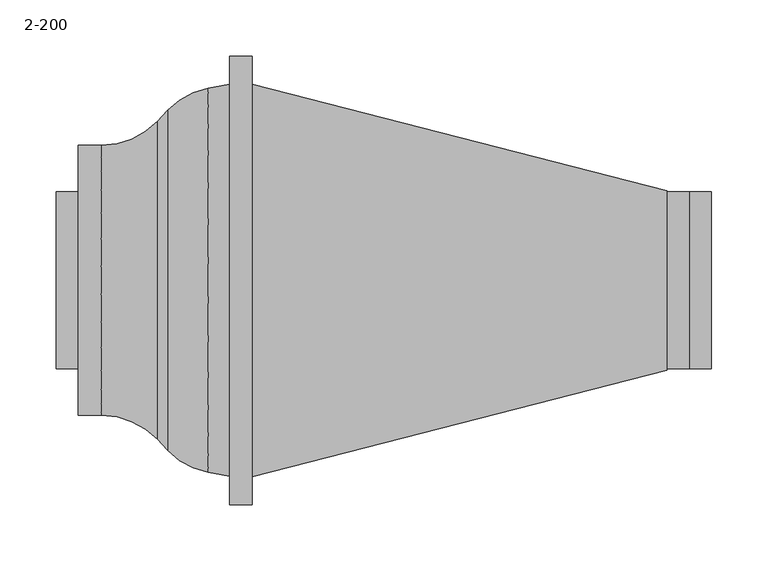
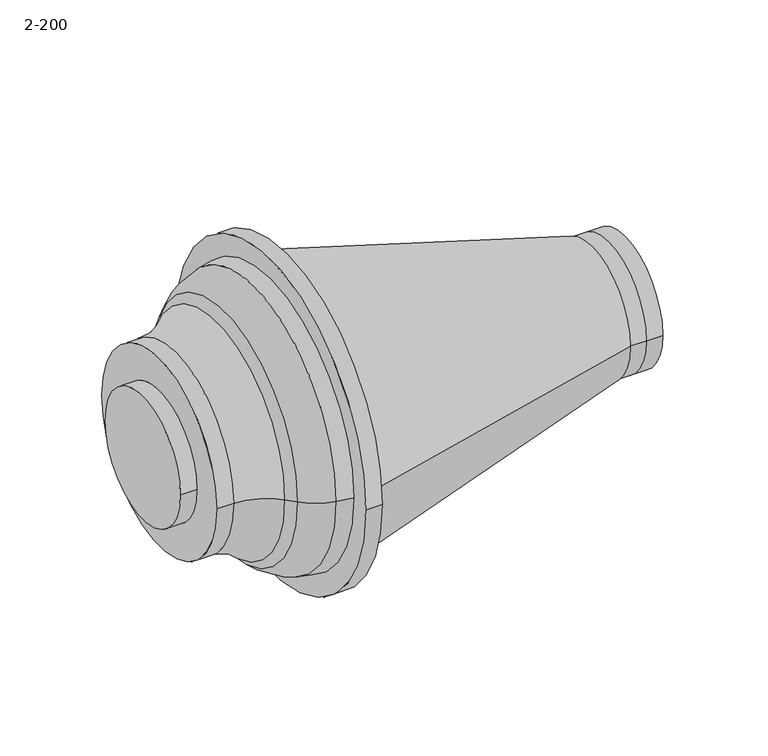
"""IFC4 building model written with IfcOpenShell, lengths in millimetres: unitary equipment geometry, VE-Wentylator-ParaForma-Harmann-VITT_L-Wywiewny : 2-200."""

from ifc_helpers import new_model, si_unit, point, frame, origin, origin_2d, place, context, project, spatial, polyline, circle_curve, ellipse_curve, trimmed, segment, composite_curve, outline, extrude, source, transform, mapped, element, save
from ifc_brep_helpers import plane_surface, cylinder_surface, revolved_surface, advanced_brep


def unitary_equipment_2_200_6ce64f90(model_context):
    return source(origin(), model_context, "Body", "SolidModel", [
        advanced_brep(
        [(-20.0, -174.9, 0.0), (-20.0, 174.9, 0.0), (-155.0, 120.4, 0.0), (-155.0, -120.4, 0.0), (-155.0, 79.0, 0.0), (-155.0, -79.0, 0.0), (-75.2, -151.7, 0.0), (-84.5, -141.9, 0.0), (-84.5, 141.9, 0.0), (-75.2, 151.7, 0.0), (-39.2, -171.3, 0.0), (-39.2, 171.3, 0.0), (-134.5, -120.4, 0.0), (-134.5, 120.4, 0.0), (-175.0, -79.0, 0.0), (-175.0, 79.0, 0.0)],
        [
            (0, 1, circle_curve(frame((-20.0, 0.0, 0.0), z_axis=(1.0, 0.0, 0.0), x_axis=(0.0, 0.9999999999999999, 0.0)), 174.9)),
            (1, 0, circle_curve(frame((-20.0, 0.0, 0.0), z_axis=(1.0, 0.0, 0.0), x_axis=(0.0, 0.9999999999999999, 0.0)), 174.9)),
            (2, 3, circle_curve(frame((-155.0, 0.0, 0.0), z_axis=(-1.0, 0.0, 0.0), x_axis=(0.0, 0.9999999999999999, 0.0)), 120.4)),
            (3, 2, circle_curve(frame((-155.0, 0.0, 0.0), z_axis=(-1.0, 0.0, 0.0), x_axis=(0.0, 0.9999999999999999, 0.0)), 120.4)),
            (4, 5, circle_curve(frame((-155.0, 0.0, 0.0), z_axis=(1.0, 0.0, 0.0), x_axis=(0.0, 0.9999999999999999, 0.0)), 79.0)),
            (5, 4, circle_curve(frame((-155.0, 0.0, 0.0), z_axis=(1.0, 0.0, 0.0), x_axis=(0.0, 0.9999999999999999, 0.0)), 79.0)),
            (6, 7),
            (7, 8, circle_curve(frame((-84.5, 0.0, 0.0), z_axis=(1.0, 0.0, 0.0), x_axis=(0.0, 0.9999999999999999, 0.0)), 141.9)),
            (8, 9),
            (9, 6, circle_curve(frame((-75.2, 0.0, 0.0), z_axis=(-1.0, 0.0, 0.0), x_axis=(0.0, 0.9999999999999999, 0.0)), 151.7)),
            (6, 9, circle_curve(frame((-75.2, 0.0, 0.0), z_axis=(-1.0, 0.0, 0.0), x_axis=(0.0, 0.9999999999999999, 0.0)), 151.7)),
            (8, 7, circle_curve(frame((-84.5, 0.0, 0.0), z_axis=(1.0, 0.0, 0.0), x_axis=(0.0, 0.9999999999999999, 0.0)), 141.9)),
            (0, 10),
            (10, 11, circle_curve(frame((-39.2, 0.0, 0.0), z_axis=(1.0, 0.0, 0.0), x_axis=(0.0, 0.9999999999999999, 0.0)), 171.3)),
            (11, 1),
            (11, 10, circle_curve(frame((-39.2, 0.0, 0.0), z_axis=(1.0, 0.0, 0.0), x_axis=(0.0, 0.9999999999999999, 0.0)), 171.3)),
            (12, 3),
            (2, 13),
            (13, 12, circle_curve(frame((-134.5, 0.0, 0.0), z_axis=(-1.0, 0.0, 0.0), x_axis=(0.0, 0.9999999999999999, 0.0)), 120.4)),
            (12, 13, circle_curve(frame((-134.5, 0.0, 0.0), z_axis=(-1.0, 0.0, 0.0), x_axis=(0.0, 0.9999999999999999, 0.0)), 120.4)),
            (7, 12, circle_curve(frame((-134.5431822, -189.3899586, 0.0), z_axis=(0.0, 0.0, 1.0000000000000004), x_axis=(0.9999999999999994, 0.0, 0.0)), 68.9899721)),
            (13, 8, circle_curve(frame((-134.5431822, 189.3899586, 0.0), z_axis=(0.0, 0.0, 1.0000000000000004), x_axis=(0.9999999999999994, 0.0, 0.0)), 68.9899721)),
            (9, 11, circle_curve(frame((-26.9195402, 105.882829, 0.0), z_axis=(0.0, 0.0, -1.0000000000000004), x_axis=(0.9999999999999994, 0.0, 0.0)), 66.5598674)),
            (10, 6, circle_curve(frame((-26.9195402, -105.882829, 0.0), z_axis=(0.0, 0.0, -1.0000000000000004), x_axis=(0.9999999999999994, 0.0, 0.0)), 66.5598674)),
            (14, 15, circle_curve(frame((-175.0, 0.0, 0.0), z_axis=(-1.0, 0.0, 0.0), x_axis=(0.0, 0.9999999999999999, 0.0)), 79.0)),
            (15, 14, circle_curve(frame((-175.0, 0.0, 0.0), z_axis=(-1.0, 0.0, 0.0), x_axis=(0.0, 0.9999999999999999, 0.0)), 79.0)),
            (14, 5),
            (4, 15),
        ],
        [
            plane_surface(frame((-20.0, 0.0, 0.0), z_axis=(1.0, 0.0, 0.0), x_axis=(0.0, 0.0, -1.0))),
            plane_surface(frame((-155.0, 0.0, 0.0), z_axis=(-1.0, 0.0, 0.0), x_axis=(0.0, 0.0, -1.0))),
            revolved_surface(polyline([(-75.2, 151.7, 0.0), (-84.5, 141.9, 0.0)]), (-155.0, 0.0, 0.0), (-0.9999999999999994, 0.0, 0.0)),
            revolved_surface(polyline([(-20.0, 174.9, 0.0), (-39.2, 171.3, 0.0)]), (-155.0, 0.0, 0.0), (-0.9999999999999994, 0.0, 0.0)),
            cylinder_surface(frame((-155.0, 0.0, 0.0), z_axis=(-0.9999999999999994, 0.0, 0.0), x_axis=(0.0, 0.9999999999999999, 0.0)), 120.4),
            revolved_surface(trimmed(ellipse_curve(frame((-134.5431822, 189.3899586, 0.0), z_axis=(0.0, 0.0, -1.0000000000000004), x_axis=(0.9999999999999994, 0.0, 0.0)), 68.9899721, 68.9899721), [point((-84.5, 141.9, 0.0))], [point((-134.5, 120.4, 0.0))], True, "CARTESIAN"), (-155.0, 0.0, 0.0), (-0.9999999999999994, 0.0, 0.0)),
            revolved_surface(trimmed(ellipse_curve(frame((-26.9195402, 105.882829, 0.0), z_axis=(0.0, 0.0, 1.0000000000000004), x_axis=(0.9999999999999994, 0.0, 0.0)), 66.5598674, 66.5598674), [point((-39.2, 171.3, 0.0))], [point((-75.2, 151.7, 0.0))], True, "CARTESIAN"), (-155.0, 0.0, 0.0), (-0.9999999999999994, 0.0, 0.0)),
            plane_surface(frame((-175.0, 0.0, 0.0), z_axis=(-1.0, 0.0, 0.0), x_axis=(0.0, 0.0, 1.0))),
            cylinder_surface(frame((-175.0, 0.0, 0.0), z_axis=(-0.9999999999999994, 0.0, 0.0), x_axis=(0.0, 0.9999999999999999, 0.0)), 79.0),
        ],
        [
            (0, [[1, 2]]),
            (1, [[3, 4], [5, 6]]),
            (2, [[7, 8, 9, 10]]),
            (2, [[-7, 11, -9, 12]]),
            (3, [[13, 14, 15, -1]]),
            (3, [[-13, -2, -15, 16]]),
            (4, [[17, -3, 18, 19]]),
            (4, [[-17, 20, -18, -4]]),
            (5, [[-8, 21, -19, 22]]),
            (5, [[-12, -22, -20, -21]]),
            (6, [[-10, 23, -14, 24]]),
            (6, [[-11, -24, -16, -23]]),
            (7, [[25, 26]]),
            (8, [[-25, 27, -5, 28]]),
            (8, [[-26, -28, -6, -27]]),
        ],
    ),
        advanced_brep(
        [(370.0, -80.0, 0.0), (370.0, 80.0, 0.0), (370.0, -79.0, 0.0), (370.0, 79.0, 0.0), (0.0, -175.0, 0.0), (0.0, 175.0, 0.0), (390.0, -79.0, 0.0), (390.0, 79.0, 0.0), (410.0, -79.0, 0.0), (410.0, 79.0, 0.0)],
        [
            (0, 1, circle_curve(frame((370.0, 0.0, 0.0), z_axis=(1.0, 0.0, 0.0), x_axis=(0.0, -0.9999999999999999, 0.0)), 80.0)),
            (1, 0, circle_curve(frame((370.0, 0.0, 0.0), z_axis=(1.0, 0.0, 0.0), x_axis=(0.0, 0.9999999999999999, 0.0)), 80.0)),
            (2, 3, circle_curve(frame((370.0, 0.0, 0.0), z_axis=(-1.0, 0.0, 0.0), x_axis=(0.0, 0.9999999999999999, 0.0)), 79.0)),
            (3, 2, circle_curve(frame((370.0, 0.0, 0.0), z_axis=(-1.0, 0.0, 0.0), x_axis=(0.0, 0.9999999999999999, 0.0)), 79.0)),
            (4, 5, circle_curve(frame((0.0, 0.0, 0.0), z_axis=(-1.0, 0.0, 0.0), x_axis=(0.0, 0.9999999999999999, 0.0)), 175.0)),
            (5, 4, circle_curve(frame((0.0, 0.0, 0.0), z_axis=(-1.0, 0.0, 0.0), x_axis=(0.0, -0.9999999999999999, 0.0)), 175.0)),
            (0, 4),
            (5, 1),
            (2, 6),
            (6, 7, circle_curve(frame((390.0, 0.0, 0.0), z_axis=(-1.0, 0.0, 0.0), x_axis=(0.0, 0.9999999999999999, 0.0)), 79.0)),
            (7, 3),
            (7, 6, circle_curve(frame((390.0, 0.0, 0.0), z_axis=(-1.0, 0.0, 0.0), x_axis=(0.0, 0.9999999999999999, 0.0)), 79.0)),
            (8, 9, circle_curve(frame((410.0, 0.0, 0.0), z_axis=(1.0, 0.0, 0.0), x_axis=(0.0, 0.9999999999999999, 0.0)), 79.0)),
            (9, 8, circle_curve(frame((410.0, 0.0, 0.0), z_axis=(1.0, 0.0, 0.0), x_axis=(0.0, 0.9999999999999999, 0.0)), 79.0)),
            (9, 7),
            (6, 8),
        ],
        [
            plane_surface(frame((370.0, 0.0, 0.0), z_axis=(1.0, 0.0, 0.0), x_axis=(0.0, 0.0, -1.0))),
            plane_surface(frame((0.0, 0.0, 0.0), z_axis=(-1.0, 0.0, 0.0), x_axis=(0.0, 0.0, -1.0))),
            revolved_surface(polyline([(370.0, -80.00000000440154, 0.0), (0.0, -175.0, 0.0)]), (681.5789474, 0.0, 0.0), (-0.9999999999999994, 0.0, 0.0)),
            revolved_surface(polyline([(370.0, 80.00000000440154, 0.0), (0.0, 175.0, 0.0)]), (681.5789474, 0.0, 0.0), (-0.9999999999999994, 0.0, 0.0)),
            cylinder_surface(frame((370.0, 0.0, 0.0), z_axis=(-0.9999999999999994, 0.0, 0.0), x_axis=(0.0, 0.9999999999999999, 0.0)), 79.0),
            plane_surface(frame((410.0, 0.0, 0.0), z_axis=(1.0, 0.0, 0.0), x_axis=(0.0, 0.0, 1.0))),
        ],
        [
            (0, [[1, 2], [3, 4]]),
            (1, [[5, 6]]),
            (2, [[-1, 7, -6, 8]]),
            (3, [[-2, -8, -5, -7]]),
            (4, [[9, 10, 11, -3]]),
            (4, [[-9, -4, -11, 12]]),
            (5, [[13, 14]]),
            (4, [[-14, 15, -10, 16]]),
            (4, [[-13, -16, -12, -15]]),
        ],
    ),
        extrude(outline(composite_curve([segment(trimmed(circle_curve(origin_2d(), 200.0), [point((-200.0, 0.0))], [point((200.0, 0.0))], False, "CARTESIAN"), True, "CONTINUOUS"), segment(trimmed(circle_curve(origin_2d(), 200.0), [point((200.0, 0.0))], [point((-200.0, 0.0))], False, "CARTESIAN"), True, "CONTINUOUS")], self_intersect=False)), frame((-20.0, 0.0, 0.0), z_axis=(1.0, 0.0, 0.0), x_axis=(0.0, 1.0, 0.0)), (0.0, 0.0, 1.0), 20.0),
    ])


if __name__ == "__main__":
    model = new_model("IFC4")
    model_context = context("Model", 3, world=origin())
    ifc_project = project(units=[si_unit("LENGTHUNIT", "METRE", prefix="MILLI")], contexts=[model_context])
    site = spatial("IfcSite", under=ifc_project)
    building = spatial("IfcBuilding", under=site)
    placement = place(None, origin())
    unitary_equipment_2_200_shape = unitary_equipment_2_200_6ce64f90(model_context)
    element("IfcUnitaryEquipment", 1, ObjectType="VE-Wentylator-ParaForma-Harmann-VITT_L-Wywiewny : 2-200", at=placement, inside=building, context=model_context, shape_type="MappedRepresentation", body=[
        mapped(unitary_equipment_2_200_shape, transform((0.0, 0.0, 0.0), x_axis=(1.0, 0.0, 0.0), y_axis=(0.0, 1.0, 0.0), z_axis=(0.0, 0.0, 1.0))),
    ])
    save(model, "model.ifc")
